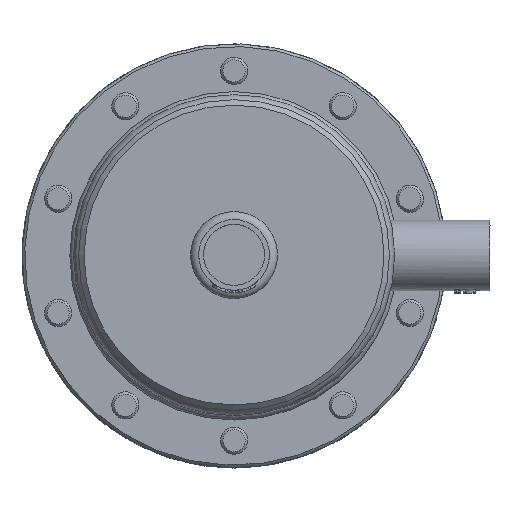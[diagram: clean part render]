
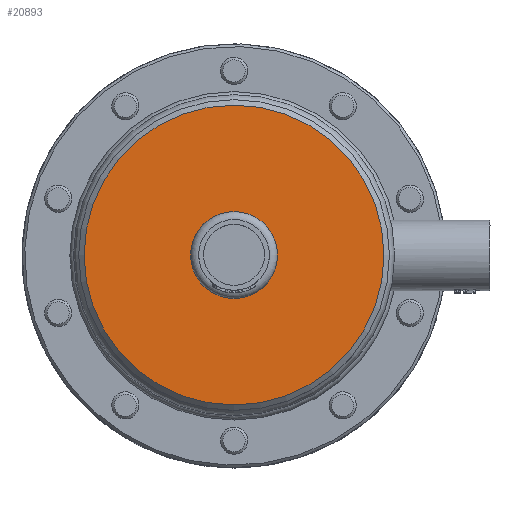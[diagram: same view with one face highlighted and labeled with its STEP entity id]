
A CAD part, top view. The second image highlights one B-rep face of the part: STEP entity #20893.
In plain terms, the highlighted planar face has unit normal (0, 0, 1).
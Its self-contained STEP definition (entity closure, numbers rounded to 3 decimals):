
#1175=PLANE('',#22622);
#1676=CIRCLE('',#22556,16.);
#1716=CIRCLE('',#22623,55.15);
#5126=FACE_BOUND('',#7567,.T.);
#6225=FACE_OUTER_BOUND('',#7566,.T.);
#7566=EDGE_LOOP('',(#18876));
#7567=EDGE_LOOP('',(#18877));
#10243=VERTEX_POINT('',#41181);
#10295=VERTEX_POINT('',#41348);
#13167=EDGE_CURVE('',#10243,#10243,#1676,.T.);
#13231=EDGE_CURVE('',#10295,#10295,#1716,.T.);
#18876=ORIENTED_EDGE('',*,*,#13231,.T.);
#18877=ORIENTED_EDGE('',*,*,#13167,.T.);
#20893=ADVANCED_FACE('',(#6225,#5126),#1175,.T.);
#22556=AXIS2_PLACEMENT_3D('',#41182,#27176,#27177);
#22622=AXIS2_PLACEMENT_3D('',#41347,#27320,#27321);
#22623=AXIS2_PLACEMENT_3D('',#41349,#27322,#27323);
#27176=DIRECTION('center_axis',(0.,0.,
-1.));
#27177=DIRECTION('ref_axis',(1.,0.,0.));
#27320=DIRECTION('center_axis',(0.,0.,
1.));
#27321=DIRECTION('ref_axis',(0.,1.,0.));
#27322=DIRECTION('center_axis',(0.,0.,
1.));
#27323=DIRECTION('ref_axis',(1.,0.,0.));
#41181=CARTESIAN_POINT('',(16.,0.,191.5));
#41182=CARTESIAN_POINT('Origin',(0.,0.,
191.5));
#41347=CARTESIAN_POINT('Origin',(27.575,0.,191.5));
#41348=CARTESIAN_POINT('',(55.15,0.,191.5));
#41349=CARTESIAN_POINT('Origin',(0.,0.,
191.5));
